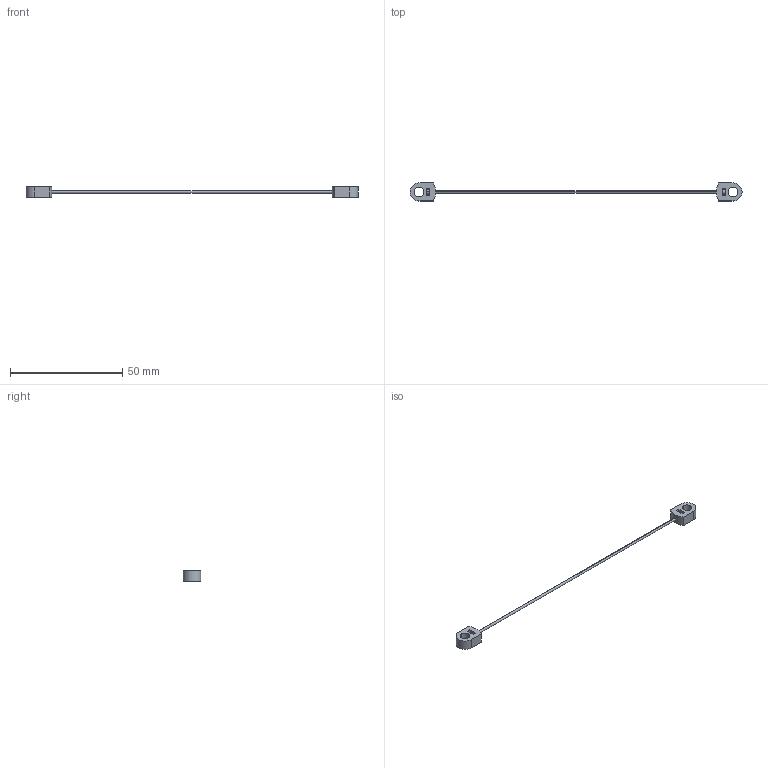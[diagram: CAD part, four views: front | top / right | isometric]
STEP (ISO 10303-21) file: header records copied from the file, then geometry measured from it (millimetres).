
FILE_DESCRIPTION (( 'STEP AP214' ), '1' );
FILE_NAME ('228-2500-430.STEP', '2021-02-18T20:01:54', ( '' ), ( '' ), 'SwSTEP 2.0', 'SolidWorks 2019', '' );
FILE_SCHEMA (( 'AUTOMOTIVE_DESIGN' ));
Length unit declared in the file: millimetre
Products named in the file (5): 228-2500-430-01 Rev1_228-2500-430-01; 228-2500-449 Rev1_228-2500-449; 228-2500-430; 228-2500-430-00 Rev1_228-2500-430-00; 228-2500-ROPE-OVERMOLD-MASTER Rev1_228-3201-ROPE-OVERMOLD-MASTER
Assembly tree (6 placements, depth 3):
  228-2500-430
    228-2500-430-00 Rev1_228-2500-430-00
      228-2500-430-01 Rev1_228-2500-430-01
      228-2500-449 Rev1_228-2500-449  x2
    228-2500-ROPE-OVERMOLD-MASTER Rev1_228-3201-ROPE-OVERMOLD-MASTER  x2
Bounding box: 147.7 x 8 x 4.57 mm (x, y, z)
Volume: 735.7 mm3; surface area: 1422.6 mm2
Topology: 5 solids, 5 shells, 58 faces, 130 edges, 80 vertices
Faces by surface type: cylinder 26, plane 20, bspline 8, torus 4
Entity records: 1126 total; most frequent: CARTESIAN_POINT 229, DIRECTION 174, ORIENTED_EDGE 136, AXIS2_PLACEMENT_3D 71, EDGE_CURVE 68, VERTEX_POINT 42, EDGE_LOOP 38, CIRCLE 34
